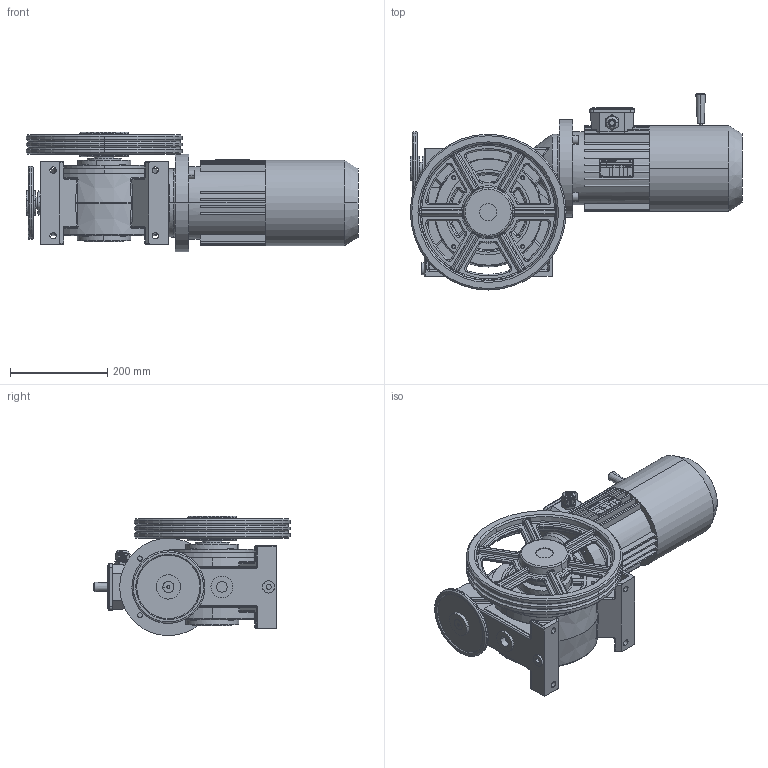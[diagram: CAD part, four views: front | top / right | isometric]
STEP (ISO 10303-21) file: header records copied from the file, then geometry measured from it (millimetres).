
FILE_DESCRIPTION (( 'STEP AP214' ), '1' );
FILE_NAME ('HS11047.STEP', '2025-02-05T07:19:37', ( '' ), ( '' ), 'SwSTEP 2.0', 'SolidWorks 2023', '' );
FILE_SCHEMA (( 'AUTOMOTIVE_DESIGN' ));
Length unit declared in the file: millimetre
Products named in the file (1): HS11047
Bounding box: 682 x 403 x 245 mm (x, y, z)
Surface area: 1020666.1 mm2 (no closed solid volume)
Topology: 0 solids, 38 shells, 2535 faces, 6042 edges, 3606 vertices
Faces by surface type: plane 838, cylinder 703, bspline 314, cone 274, torus 256, sphere 150
Entity records: 86466 total; most frequent: CARTESIAN_POINT 29269, DIRECTION 12185, ORIENTED_EDGE 11916, EDGE_CURVE 5962, AXIS2_PLACEMENT_3D 4881, VERTEX_POINT 3590, EDGE_LOOP 2752, CIRCLE 2659
